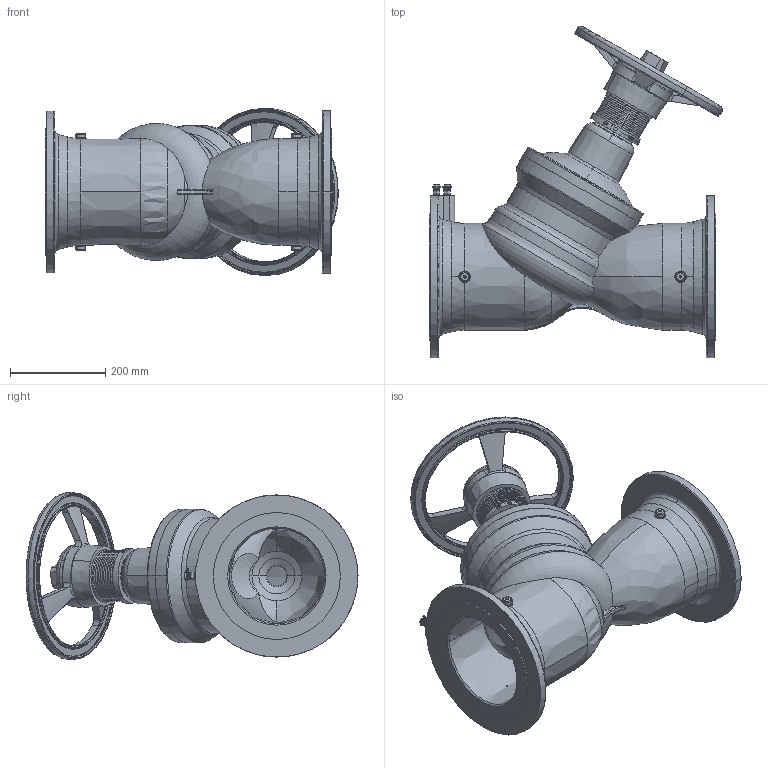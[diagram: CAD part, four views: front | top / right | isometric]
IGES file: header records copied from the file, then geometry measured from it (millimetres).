
Global section: file name: No Iges File Name specified; native system: AutoDesk Inventor R12.0; preprocessor: AutoDesk Inventor Iges Exporter R12.0; date: 20110118.144232; units: millimetre
Bounding box: 614.16 x 695.47 x 350.17 mm (x, y, z)
Volume: 13713831.2 mm3; surface area: 1785406.5 mm2
Topology: 1 solids, 3 shells, 1192 faces, 3165 edges, 2052 vertices
Faces by surface type: plane 421, bspline 358, revolution 136, cylinder 132, cone 83, torus 60, sphere 2
